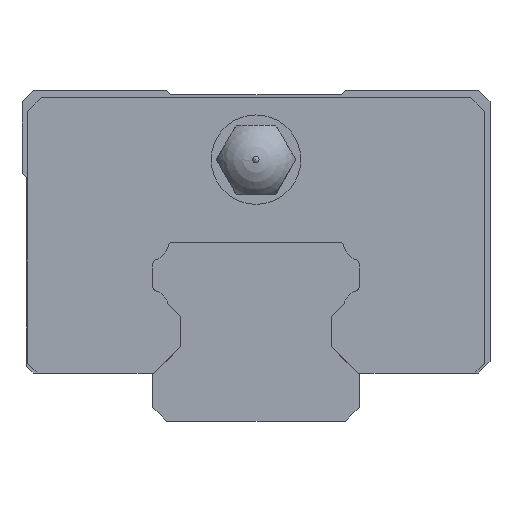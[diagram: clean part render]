
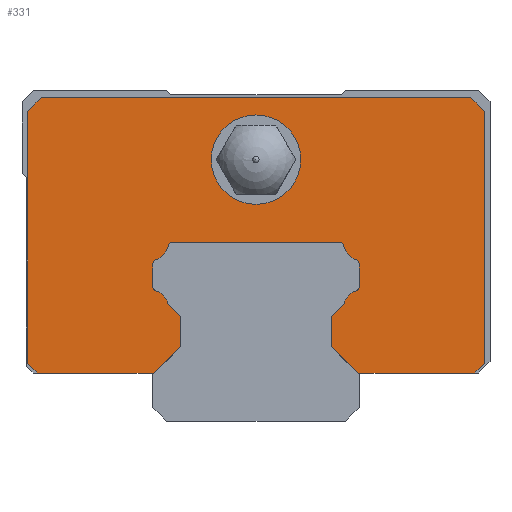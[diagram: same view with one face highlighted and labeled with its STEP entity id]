
A CAD part, front view. The second image highlights one B-rep face of the part: STEP entity #331.
In plain terms, the highlighted planar face has unit normal (0, -1, 0).
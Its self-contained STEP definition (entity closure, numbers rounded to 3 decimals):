
#162=FACE_BOUND('',#630,.T.);
#163=FACE_BOUND('',#631,.T.);
#237=CIRCLE('',#2264,3.25);
#238=CIRCLE('',#2266,1.4);
#239=CIRCLE('',#2267,0.3);
#240=CIRCLE('',#2268,0.3);
#241=CIRCLE('',#2269,1.4);
#242=CIRCLE('',#2270,0.3);
#243=CIRCLE('',#2271,0.3);
#244=CIRCLE('',#2272,1.4);
#245=CIRCLE('',#2273,0.3);
#246=CIRCLE('',#2274,0.3);
#247=CIRCLE('',#2275,1.4);
#331=ADVANCED_FACE('',(#162,#163),#456,.T.);
#456=PLANE('',#2276);
#630=EDGE_LOOP('',(#854,#855,#856,#857,#858,#859,#860,#861,#862,#863,#864,#865,#866,#867,#868,#869,#870,#871,#872,#873,#874,#875,#876,#877,#878,#879,#880,#881));
#631=EDGE_LOOP('',(#882));
#854=ORIENTED_EDGE('',*,*,#1630,.F.);
#855=ORIENTED_EDGE('',*,*,#1631,.F.);
#856=ORIENTED_EDGE('',*,*,#1632,.F.);
#857=ORIENTED_EDGE('',*,*,#1633,.F.);
#858=ORIENTED_EDGE('',*,*,#1634,.F.);
#859=ORIENTED_EDGE('',*,*,#1635,.F.);
#860=ORIENTED_EDGE('',*,*,#1636,.F.);
#861=ORIENTED_EDGE('',*,*,#1637,.F.);
#862=ORIENTED_EDGE('',*,*,#1638,.F.);
#863=ORIENTED_EDGE('',*,*,#1639,.F.);
#864=ORIENTED_EDGE('',*,*,#1640,.F.);
#865=ORIENTED_EDGE('',*,*,#1641,.F.);
#866=ORIENTED_EDGE('',*,*,#1642,.F.);
#867=ORIENTED_EDGE('',*,*,#1643,.F.);
#868=ORIENTED_EDGE('',*,*,#1644,.F.);
#869=ORIENTED_EDGE('',*,*,#1645,.F.);
#870=ORIENTED_EDGE('',*,*,#1646,.F.);
#871=ORIENTED_EDGE('',*,*,#1647,.F.);
#872=ORIENTED_EDGE('',*,*,#1648,.F.);
#873=ORIENTED_EDGE('',*,*,#1622,.T.);
#874=ORIENTED_EDGE('',*,*,#1601,.T.);
#875=ORIENTED_EDGE('',*,*,#1606,.T.);
#876=ORIENTED_EDGE('',*,*,#1609,.T.);
#877=ORIENTED_EDGE('',*,*,#1612,.T.);
#878=ORIENTED_EDGE('',*,*,#1615,.T.);
#879=ORIENTED_EDGE('',*,*,#1619,.T.);
#880=ORIENTED_EDGE('',*,*,#1621,.T.);
#881=ORIENTED_EDGE('',*,*,#1598,.T.);
#882=ORIENTED_EDGE('',*,*,#1629,.F.);
#1386=VERTEX_POINT('',#3125);
#1391=VERTEX_POINT('',#3135);
#1394=VERTEX_POINT('',#3142);
#1395=VERTEX_POINT('',#3144);
#1398=VERTEX_POINT('',#3152);
#1400=VERTEX_POINT('',#3158);
#1402=VERTEX_POINT('',#3164);
#1404=VERTEX_POINT('',#3170);
#1407=VERTEX_POINT('',#3178);
#1408=VERTEX_POINT('',#3185);
#1413=VERTEX_POINT('',#3198);
#1414=VERTEX_POINT('',#3201);
#1415=VERTEX_POINT('',#3203);
#1416=VERTEX_POINT('',#3205);
#1417=VERTEX_POINT('',#3207);
#1418=VERTEX_POINT('',#3209);
#1419=VERTEX_POINT('',#3211);
#1420=VERTEX_POINT('',#3213);
#1421=VERTEX_POINT('',#3215);
#1422=VERTEX_POINT('',#3217);
#1423=VERTEX_POINT('',#3219);
#1424=VERTEX_POINT('',#3221);
#1425=VERTEX_POINT('',#3223);
#1426=VERTEX_POINT('',#3225);
#1427=VERTEX_POINT('',#3227);
#1428=VERTEX_POINT('',#3229);
#1429=VERTEX_POINT('',#3231);
#1430=VERTEX_POINT('',#3233);
#1431=VERTEX_POINT('',#3235);
#1598=EDGE_CURVE('',#1386,#1391,#1888,.T.);
#1601=EDGE_CURVE('',#1395,#1394,#1891,.T.);
#1606=EDGE_CURVE('',#1394,#1398,#1895,.T.);
#1609=EDGE_CURVE('',#1398,#1400,#1898,.T.);
#1612=EDGE_CURVE('',#1400,#1402,#1901,.T.);
#1615=EDGE_CURVE('',#1402,#1404,#1904,.T.);
#1619=EDGE_CURVE('',#1404,#1407,#1907,.T.);
#1621=EDGE_CURVE('',#1407,#1386,#1909,.T.);
#1622=EDGE_CURVE('',#1408,#1395,#1910,.T.);
#1629=EDGE_CURVE('',#1413,#1413,#237,.T.);
#1630=EDGE_CURVE('',#1414,#1391,#1916,.T.);
#1631=EDGE_CURVE('',#1415,#1414,#1917,.T.);
#1632=EDGE_CURVE('',#1416,#1415,#1918,.T.);
#1633=EDGE_CURVE('',#1417,#1416,#238,.T.);
#1634=EDGE_CURVE('',#1418,#1417,#239,.T.);
#1635=EDGE_CURVE('',#1419,#1418,#1919,.T.);
#1636=EDGE_CURVE('',#1420,#1419,#240,.T.);
#1637=EDGE_CURVE('',#1421,#1420,#241,.T.);
#1638=EDGE_CURVE('',#1422,#1421,#242,.T.);
#1639=EDGE_CURVE('',#1423,#1422,#1920,.T.);
#1640=EDGE_CURVE('',#1424,#1423,#243,.T.);
#1641=EDGE_CURVE('',#1425,#1424,#244,.T.);
#1642=EDGE_CURVE('',#1426,#1425,#245,.T.);
#1643=EDGE_CURVE('',#1427,#1426,#1921,.T.);
#1644=EDGE_CURVE('',#1428,#1427,#246,.T.);
#1645=EDGE_CURVE('',#1429,#1428,#247,.T.);
#1646=EDGE_CURVE('',#1430,#1429,#1922,.T.);
#1647=EDGE_CURVE('',#1431,#1430,#1923,.T.);
#1648=EDGE_CURVE('',#1408,#1431,#1924,.T.);
#1888=LINE('',#3136,#2083);
#1891=LINE('',#3143,#2086);
#1895=LINE('',#3153,#2090);
#1898=LINE('',#3159,#2093);
#1901=LINE('',#3165,#2096);
#1904=LINE('',#3171,#2099);
#1907=LINE('',#3179,#2102);
#1909=LINE('',#3182,#2104);
#1910=LINE('',#3184,#2105);
#1916=LINE('',#3200,#2111);
#1917=LINE('',#3202,#2112);
#1918=LINE('',#3204,#2113);
#1919=LINE('',#3210,#2114);
#1920=LINE('',#3218,#2115);
#1921=LINE('',#3226,#2116);
#1922=LINE('',#3232,#2117);
#1923=LINE('',#3234,#2118);
#1924=LINE('',#3236,#2119);
#2083=VECTOR('',#2493,1.);
#2086=VECTOR('',#2498,1.);
#2090=VECTOR('',#2506,1.);
#2093=VECTOR('',#2511,1.);
#2096=VECTOR('',#2516,1.);
#2099=VECTOR('',#2521,1.);
#2102=VECTOR('',#2528,1.);
#2104=VECTOR('',#2532,1.);
#2105=VECTOR('',#2535,1.);
#2111=VECTOR('',#2549,1.);
#2112=VECTOR('',#2550,1.);
#2113=VECTOR('',#2551,1.);
#2114=VECTOR('',#2556,1.);
#2115=VECTOR('',#2563,1.);
#2116=VECTOR('',#2570,1.);
#2117=VECTOR('',#2575,1.);
#2118=VECTOR('',#2576,1.);
#2119=VECTOR('',#2577,1.);
#2264=AXIS2_PLACEMENT_3D('',#3197,#2545,#2546);
#2266=AXIS2_PLACEMENT_3D('',#3206,#2552,#2553);
#2267=AXIS2_PLACEMENT_3D('',#3208,#2554,#2555);
#2268=AXIS2_PLACEMENT_3D('',#3212,#2557,#2558);
#2269=AXIS2_PLACEMENT_3D('',#3214,#2559,#2560);
#2270=AXIS2_PLACEMENT_3D('',#3216,#2561,#2562);
#2271=AXIS2_PLACEMENT_3D('',#3220,#2564,#2565);
#2272=AXIS2_PLACEMENT_3D('',#3222,#2566,#2567);
#2273=AXIS2_PLACEMENT_3D('',#3224,#2568,#2569);
#2274=AXIS2_PLACEMENT_3D('',#3228,#2571,#2572);
#2275=AXIS2_PLACEMENT_3D('',#3230,#2573,#2574);
#2276=AXIS2_PLACEMENT_3D('',#3237,#2578,#2579);
#2493=DIRECTION('',(1.,0.,0.));
#2498=DIRECTION('',(0.707,0.,0.707));
#2506=DIRECTION('',(0.,0.,1.));
#2511=DIRECTION('',(-0.707,0.,0.707));
#2516=DIRECTION('',(-1.,0.,0.));
#2521=DIRECTION('',(-0.707,0.,-0.707));
#2528=DIRECTION('',(0.,0.,-1.));
#2532=DIRECTION('',(0.707,0.,-0.707));
#2535=DIRECTION('',(1.,0.,0.));
#2545=DIRECTION('',(0.,-1.,0.));
#2546=DIRECTION('',(1.,0.,0.));
#2549=DIRECTION('',(-0.707,0.,-0.707));
#2550=DIRECTION('',(0.,0.,-1.));
#2551=DIRECTION('',(0.707,0.,-0.707));
#2552=DIRECTION('',(0.,1.,0.));
#2553=DIRECTION('',(0.,0.,-1.));
#2554=DIRECTION('',(0.,-1.,0.));
#2555=DIRECTION('',(0.,0.,-1.));
#2556=DIRECTION('',(0.,0.,-1.));
#2557=DIRECTION('',(0.,-1.,0.));
#2558=DIRECTION('',(0.,0.,-1.));
#2559=DIRECTION('',(0.,1.,0.));
#2560=DIRECTION('',(0.,0.,-1.));
#2561=DIRECTION('',(0.,-1.,0.));
#2562=DIRECTION('',(0.,0.,-1.));
#2563=DIRECTION('',(-1.,0.,0.));
#2564=DIRECTION('',(0.,-1.,0.));
#2565=DIRECTION('',(0.,0.,-1.));
#2566=DIRECTION('',(0.,1.,0.));
#2567=DIRECTION('',(0.,0.,-1.));
#2568=DIRECTION('',(0.,-1.,0.));
#2569=DIRECTION('',(0.,0.,-1.));
#2570=DIRECTION('',(0.,0.,1.));
#2571=DIRECTION('',(0.,-1.,0.));
#2572=DIRECTION('',(0.,0.,-1.));
#2573=DIRECTION('',(0.,1.,0.));
#2574=DIRECTION('',(0.,0.,-1.));
#2575=DIRECTION('',(0.707,0.,0.707));
#2576=DIRECTION('',(0.,0.,1.));
#2577=DIRECTION('',(-0.707,0.,0.707));
#2578=DIRECTION('',(0.,-1.,0.));
#2579=DIRECTION('',(0.,0.,-1.));
#3125=CARTESIAN_POINT('',(-15.9,-7.5,3.5));
#3135=CARTESIAN_POINT('',(-7.4,-7.5,3.5));
#3136=CARTESIAN_POINT('',(-15.9,-7.5,3.5));
#3142=CARTESIAN_POINT('',(16.6,-7.5,4.2));
#3143=CARTESIAN_POINT('',(15.9,-7.5,3.5));
#3144=CARTESIAN_POINT('',(15.9,-7.5,3.5));
#3152=CARTESIAN_POINT('',(16.6,-7.5,22.5));
#3153=CARTESIAN_POINT('',(16.6,-7.5,4.2));
#3158=CARTESIAN_POINT('',(15.6,-7.5,23.5));
#3159=CARTESIAN_POINT('',(16.6,-7.5,22.5));
#3164=CARTESIAN_POINT('',(-15.6,-7.5,23.5));
#3165=CARTESIAN_POINT('',(15.6,-7.5,23.5));
#3170=CARTESIAN_POINT('',(-16.6,-7.5,22.5));
#3171=CARTESIAN_POINT('',(-15.6,-7.5,23.5));
#3178=CARTESIAN_POINT('',(-16.6,-7.5,4.2));
#3179=CARTESIAN_POINT('',(-16.6,-7.5,22.5));
#3182=CARTESIAN_POINT('',(-16.6,-7.5,4.2));
#3184=CARTESIAN_POINT('',(-15.9,-7.5,3.5));
#3185=CARTESIAN_POINT('',(7.4,-7.5,3.5));
#3197=CARTESIAN_POINT('',(0.,-7.5,19.));
#3198=CARTESIAN_POINT('',(3.25,-7.5,19.));
#3200=CARTESIAN_POINT('',(4.05,-7.5,14.95));
#3201=CARTESIAN_POINT('',(-5.5,-7.5,5.4));
#3202=CARTESIAN_POINT('',(-5.5,-7.5,19.));
#3203=CARTESIAN_POINT('',(-5.5,-7.5,7.6));
#3204=CARTESIAN_POINT('',(-8.45,-7.5,10.55));
#3205=CARTESIAN_POINT('',(-6.376,-7.5,8.476));
#3206=CARTESIAN_POINT('',(-7.74,-7.5,8.16));
#3207=CARTESIAN_POINT('',(-7.295,-7.5,9.488));
#3208=CARTESIAN_POINT('',(-7.2,-7.5,9.772));
#3209=CARTESIAN_POINT('',(-7.5,-7.5,9.772));
#3210=CARTESIAN_POINT('',(-7.5,-7.5,19.));
#3211=CARTESIAN_POINT('',(-7.5,-7.5,11.428));
#3212=CARTESIAN_POINT('',(-7.2,-7.5,11.428));
#3213=CARTESIAN_POINT('',(-7.295,-7.5,11.712));
#3214=CARTESIAN_POINT('',(-7.74,-7.5,13.04));
#3215=CARTESIAN_POINT('',(-6.368,-7.5,12.76));
#3216=CARTESIAN_POINT('',(-6.074,-7.5,12.7));
#3217=CARTESIAN_POINT('',(-6.074,-7.5,13.));
#3218=CARTESIAN_POINT('',(0.,-7.5,13.));
#3219=CARTESIAN_POINT('',(6.074,-7.5,13.));
#3220=CARTESIAN_POINT('',(6.074,-7.5,12.7));
#3221=CARTESIAN_POINT('',(6.368,-7.5,12.76));
#3222=CARTESIAN_POINT('',(7.74,-7.5,13.04));
#3223=CARTESIAN_POINT('',(7.295,-7.5,11.712));
#3224=CARTESIAN_POINT('',(7.2,-7.5,11.428));
#3225=CARTESIAN_POINT('',(7.5,-7.5,11.428));
#3226=CARTESIAN_POINT('',(7.5,-7.5,19.));
#3227=CARTESIAN_POINT('',(7.5,-7.5,9.772));
#3228=CARTESIAN_POINT('',(7.2,-7.5,9.772));
#3229=CARTESIAN_POINT('',(7.295,-7.5,9.488));
#3230=CARTESIAN_POINT('',(7.74,-7.5,8.16));
#3231=CARTESIAN_POINT('',(6.376,-7.5,8.476));
#3232=CARTESIAN_POINT('',(8.45,-7.5,10.55));
#3233=CARTESIAN_POINT('',(5.5,-7.5,7.6));
#3234=CARTESIAN_POINT('',(5.5,-7.5,19.));
#3235=CARTESIAN_POINT('',(5.5,-7.5,5.4));
#3236=CARTESIAN_POINT('',(-4.05,-7.5,14.95));
#3237=CARTESIAN_POINT('',(0.,-7.5,19.));
